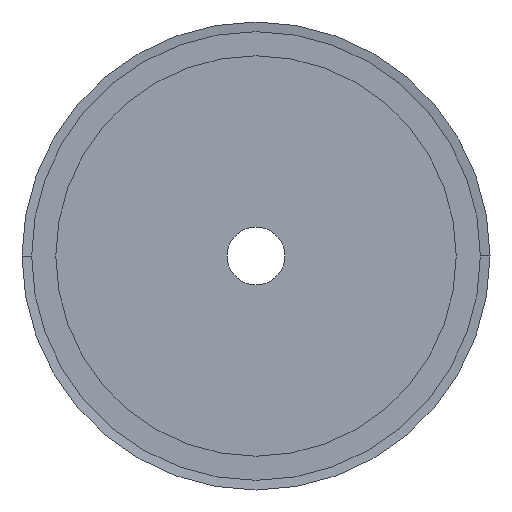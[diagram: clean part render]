
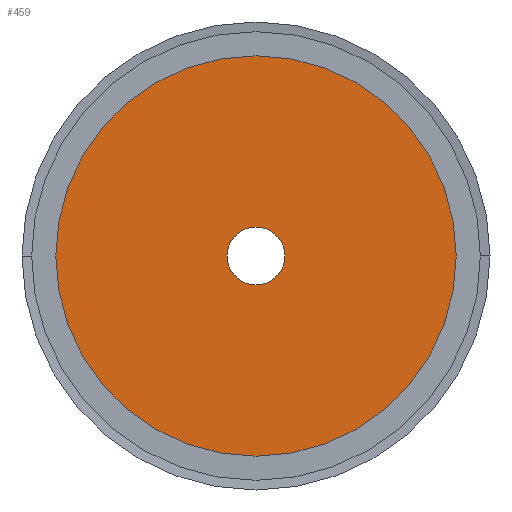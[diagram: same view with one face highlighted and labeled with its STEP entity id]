
A CAD part, left-side view. The second image highlights one B-rep face of the part: STEP entity #459.
In plain terms, the highlighted planar face has unit normal (-1, 0, 0).
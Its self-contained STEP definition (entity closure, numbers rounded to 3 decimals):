
#459 = ADVANCED_FACE( '', ( #1233, #1234 ), #1235, .T. );
#1233 = FACE_BOUND( '', #2008, .T. );
#1234 = FACE_OUTER_BOUND( '', #2009, .T. );
#1235 = PLANE( '', #2010 );
#2008 = EDGE_LOOP( '', ( #5183, #5184 ) );
#2009 = EDGE_LOOP( '', ( #5185, #5186 ) );
#2010 = AXIS2_PLACEMENT_3D( '', #5187, #5188, #5189 );
#5183 = ORIENTED_EDGE( '', *, *, #6196, .F. );
#5184 = ORIENTED_EDGE( '', *, *, #5205, .F. );
#5185 = ORIENTED_EDGE( '', *, *, #5193, .T. );
#5186 = ORIENTED_EDGE( '', *, *, #6201, .T. );
#5187 = CARTESIAN_POINT( '', ( 0., 23.75, 0. ) );
#5188 = DIRECTION( '', ( -1., 0., 0. ) );
#5189 = DIRECTION( '', ( 0., 1., 0. ) );
#5193 = EDGE_CURVE( '', #6203, #6207, #6209, .T. );
#5205 = EDGE_CURVE( '', #6231, #6227, #6233, .T. );
#6196 = EDGE_CURVE( '', #6227, #6231, #7840, .T. );
#6201 = EDGE_CURVE( '', #6207, #6203, #7845, .T. );
#6203 = VERTEX_POINT( '', #7847 );
#6207 = VERTEX_POINT( '', #7852 );
#6209 = CIRCLE( '', #7855, 41.5 );
#6227 = VERTEX_POINT( '', #7877 );
#6231 = VERTEX_POINT( '', #7882 );
#6233 = CIRCLE( '', #7885, 6. );
#7840 = CIRCLE( '', #9924, 6. );
#7845 = CIRCLE( '', #9929, 41.5 );
#7847 = CARTESIAN_POINT( '', ( 0., 41.5, 0. ) );
#7852 = CARTESIAN_POINT( '', ( 0., -41.5, 0. ) );
#7855 = AXIS2_PLACEMENT_3D( '', #9935, #9936, #9937 );
#7877 = CARTESIAN_POINT( '', ( 0., 6., 0. ) );
#7882 = CARTESIAN_POINT( '', ( 0., -6., 0. ) );
#7885 = AXIS2_PLACEMENT_3D( '', #9959, #9960, #9961 );
#9924 = AXIS2_PLACEMENT_3D( '', #12068, #12069, #12070 );
#9929 = AXIS2_PLACEMENT_3D( '', #12083, #12084, #12085 );
#9935 = CARTESIAN_POINT( '', ( 0., 0., 0. ) );
#9936 = DIRECTION( '', ( -1., 0., 0. ) );
#9937 = DIRECTION( '', ( 0., 1., 0. ) );
#9959 = CARTESIAN_POINT( '', ( 0., 0., 0. ) );
#9960 = DIRECTION( '', ( -1., 0., 0. ) );
#9961 = DIRECTION( '', ( 0., 1., 0. ) );
#12068 = CARTESIAN_POINT( '', ( 0., 0., 0. ) );
#12069 = DIRECTION( '', ( -1., 0., 0. ) );
#12070 = DIRECTION( '', ( 0., 1., 0. ) );
#12083 = CARTESIAN_POINT( '', ( 0., 0., 0. ) );
#12084 = DIRECTION( '', ( -1., 0., 0. ) );
#12085 = DIRECTION( '', ( 0., 1., 0. ) );
